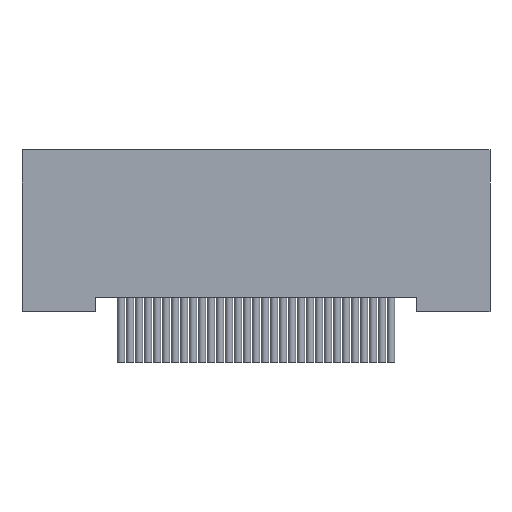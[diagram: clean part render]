
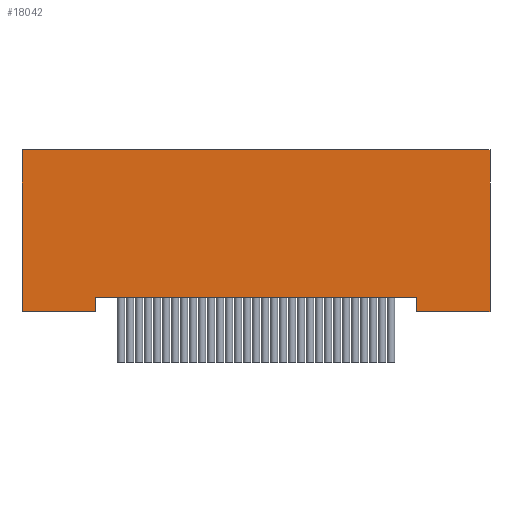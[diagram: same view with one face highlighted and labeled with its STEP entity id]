
A CAD part, front view. The second image highlights one B-rep face of the part: STEP entity #18042.
In plain terms, the highlighted planar face has unit normal (0, -1, 0).
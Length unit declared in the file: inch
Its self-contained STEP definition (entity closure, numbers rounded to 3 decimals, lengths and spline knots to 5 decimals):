
#268 = CARTESIAN_POINT ( 'NONE',  ( -0.325, -0.0575, -0.225 ) ) ;
#746 = VERTEX_POINT ( 'NONE', #12500 ) ;
#750 = VECTOR ( 'NONE', #15196, 39.37008 ) ;
#1184 = DIRECTION ( 'NONE',  ( 0., 0., -1. ) ) ;
#2139 = LINE ( 'NONE', #4391, #17760 ) ;
#2612 = VECTOR ( 'NONE', #25058, 39.37008 ) ;
#2921 = EDGE_LOOP ( 'NONE', ( #21061, #3277, #17123, #6955, #18354, #14756, #21408, #4770 ) ) ;
#3277 = ORIENTED_EDGE ( 'NONE', *, *, #8541, .T. ) ;
#3382 = CARTESIAN_POINT ( 'NONE',  ( -0.2225, -0.0575, -0.225 ) ) ;
#3453 = EDGE_CURVE ( 'NONE', #18103, #16372, #17025, .T. ) ;
#3460 = VERTEX_POINT ( 'NONE', #5082 ) ;
#4391 = CARTESIAN_POINT ( 'NONE',  ( 0.325, -0.0575, -0.225 ) ) ;
#4579 = VERTEX_POINT ( 'NONE', #3382 ) ;
#4770 = ORIENTED_EDGE ( 'NONE', *, *, #3453, .F. ) ;
#4871 = DIRECTION ( 'NONE',  ( 0., 0., -1. ) ) ;
#5082 = CARTESIAN_POINT ( 'NONE',  ( 0.2225, -0.0575, -0.225 ) ) ;
#5146 = EDGE_CURVE ( 'NONE', #26226, #4579, #8057, .T. ) ;
#6437 = PLANE ( 'NONE',  #20556 ) ;
#6955 = ORIENTED_EDGE ( 'NONE', *, *, #10830, .F. ) ;
#8037 = CARTESIAN_POINT ( 'NONE',  ( -0.325, -0.0575, 0. ) ) ;
#8057 = LINE ( 'NONE', #18876, #2612 ) ;
#8541 = EDGE_CURVE ( 'NONE', #3460, #17497, #10086, .T. ) ;
#9129 = LINE ( 'NONE', #8037, #9775 ) ;
#9191 = VERTEX_POINT ( 'NONE', #15198 ) ;
#9582 = EDGE_CURVE ( 'NONE', #16372, #4579, #22206, .T. ) ;
#9775 = VECTOR ( 'NONE', #22109, 39.37008 ) ;
#10006 = CARTESIAN_POINT ( 'NONE',  ( -0.325, -0.0575, -0.225 ) ) ;
#10086 = LINE ( 'NONE', #12165, #14843 ) ;
#10830 = EDGE_CURVE ( 'NONE', #746, #9191, #9129, .T. ) ;
#11354 = CARTESIAN_POINT ( 'NONE',  ( 0.2225, -0.0575, -0.205 ) ) ;
#12165 = CARTESIAN_POINT ( 'NONE',  ( -0.325, -0.0575, -0.225 ) ) ;
#12452 = DIRECTION ( 'NONE',  ( 0., -1., 0. ) ) ;
#12500 = CARTESIAN_POINT ( 'NONE',  ( -0.325, -0.0575, 0. ) ) ;
#13606 = CARTESIAN_POINT ( 'NONE',  ( -0.2225, -0.0575, -0.205 ) ) ;
#13863 = EDGE_CURVE ( 'NONE', #18103, #3460, #26253, .T. ) ;
#14523 = DIRECTION ( 'NONE',  ( 0., 0., 1. ) ) ;
#14744 = CARTESIAN_POINT ( 'NONE',  ( 0.2225, -0.0575, -0.205 ) ) ;
#14756 = ORIENTED_EDGE ( 'NONE', *, *, #5146, .T. ) ;
#14843 = VECTOR ( 'NONE', #26402, 39.37008 ) ;
#15196 = DIRECTION ( 'NONE',  ( -1., 0., 0. ) ) ;
#15198 = CARTESIAN_POINT ( 'NONE',  ( 0.325, -0.0575, 0. ) ) ;
#15570 = EDGE_CURVE ( 'NONE', #26226, #746, #16870, .T. ) ;
#15984 = VECTOR ( 'NONE', #1184, 39.37008 ) ;
#16372 = VERTEX_POINT ( 'NONE', #13606 ) ;
#16742 = VECTOR ( 'NONE', #4871, 39.37008 ) ;
#16870 = LINE ( 'NONE', #268, #26501 ) ;
#17025 = LINE ( 'NONE', #25431, #750 ) ;
#17123 = ORIENTED_EDGE ( 'NONE', *, *, #17537, .T. ) ;
#17497 = VERTEX_POINT ( 'NONE', #22679 ) ;
#17537 = EDGE_CURVE ( 'NONE', #17497, #9191, #2139, .T. ) ;
#17760 = VECTOR ( 'NONE', #14523, 39.37008 ) ;
#18042 = ADVANCED_FACE ( 'NONE', ( #19029 ), #6437, .T. ) ;
#18103 = VERTEX_POINT ( 'NONE', #14744 ) ;
#18354 = ORIENTED_EDGE ( 'NONE', *, *, #15570, .F. ) ;
#18728 = DIRECTION ( 'NONE',  ( 0., 0., 1. ) ) ;
#18876 = CARTESIAN_POINT ( 'NONE',  ( -0.325, -0.0575, -0.225 ) ) ;
#19029 = FACE_OUTER_BOUND ( 'NONE', #2921, .T. ) ;
#20556 = AXIS2_PLACEMENT_3D ( 'NONE', #20688, #12452, #22741 ) ;
#20688 = CARTESIAN_POINT ( 'NONE',  ( -0.325, -0.0575, -0.225 ) ) ;
#21061 = ORIENTED_EDGE ( 'NONE', *, *, #13863, .T. ) ;
#21408 = ORIENTED_EDGE ( 'NONE', *, *, #9582, .F. ) ;
#22109 = DIRECTION ( 'NONE',  ( 1., 0., 0. ) ) ;
#22206 = LINE ( 'NONE', #23161, #16742 ) ;
#22679 = CARTESIAN_POINT ( 'NONE',  ( 0.325, -0.0575, -0.225 ) ) ;
#22741 = DIRECTION ( 'NONE',  ( 1., 0., 0. ) ) ;
#23161 = CARTESIAN_POINT ( 'NONE',  ( -0.2225, -0.0575, -0.205 ) ) ;
#25058 = DIRECTION ( 'NONE',  ( 1., 0., 0. ) ) ;
#25431 = CARTESIAN_POINT ( 'NONE',  ( 0.2225, -0.0575, -0.205 ) ) ;
#26226 = VERTEX_POINT ( 'NONE', #10006 ) ;
#26253 = LINE ( 'NONE', #11354, #15984 ) ;
#26402 = DIRECTION ( 'NONE',  ( 1., 0., 0. ) ) ;
#26501 = VECTOR ( 'NONE', #18728, 39.37008 ) ;
